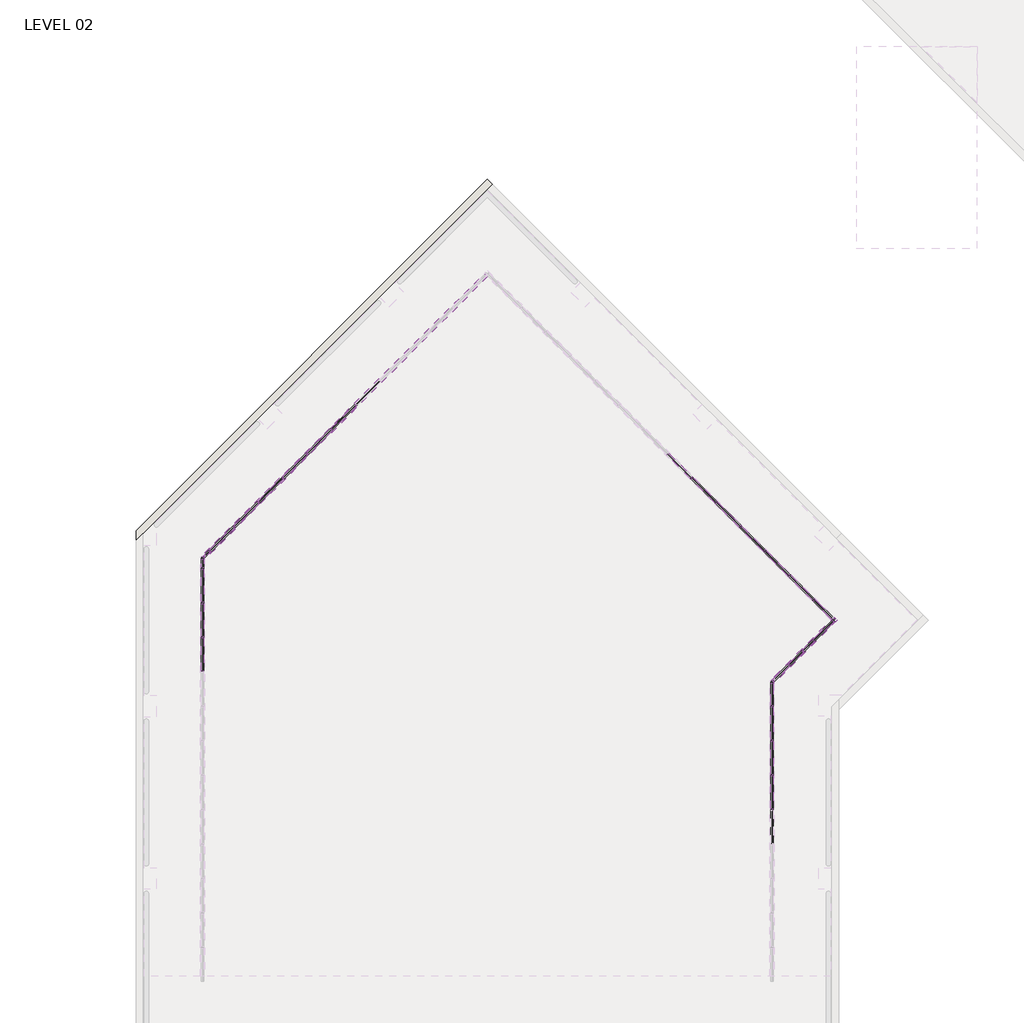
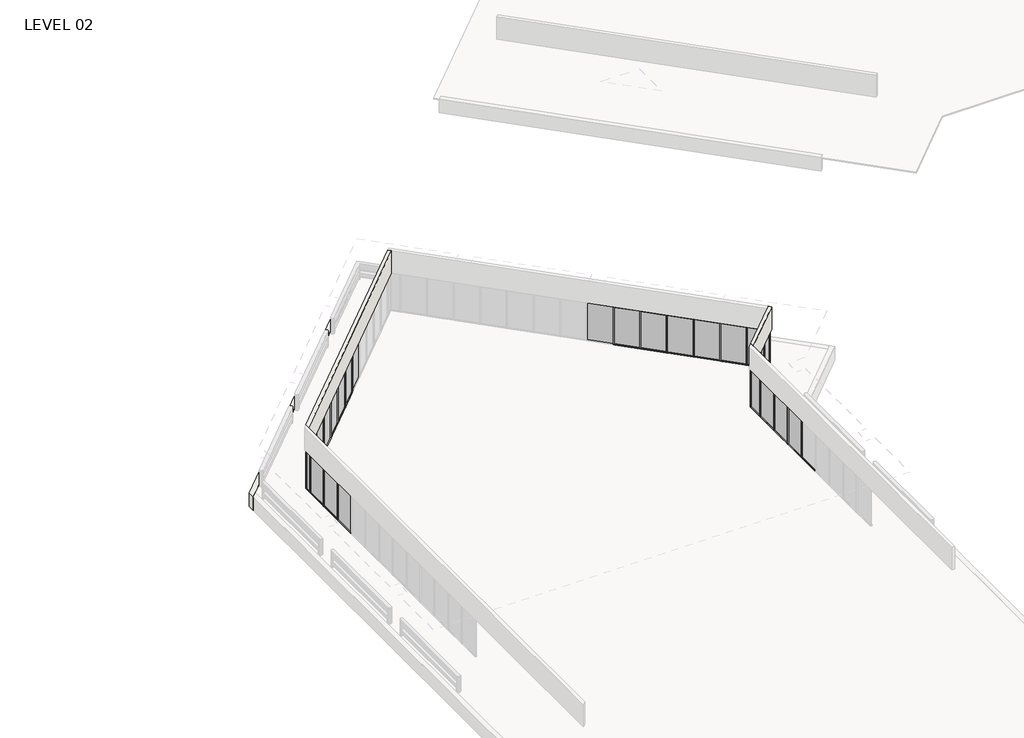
# One storey, part 5 of 19: 81 members, 27 plates, 3 walls.
"""IFC4 building model written with IfcOpenShell, lengths in millimetres."""

from ifc_helpers import new_model, si_unit, frame, origin, place, context, project, spatial, polyline, outline, extrude, faceted_brep, transform, mapped, element, save
from components import member_16770488, member_ed5eb8ce, member_5247f267, member_e44af9ab, member_800970d4, member_1d3a199d, member_1b18ecbc, member_76371e1d, member_71e516ba, plate_ce959b8d, plate_67294edd, plate_43a54168, plate_8062c6fe, plate_e0bd23ee, plate_474de82a, plate_53ca565f, plate_9188e7fd, plate_7efc74f4

model = new_model("IFC4")

# Units and contexts
model_context = context("Model", 3, world=origin())
ifc_project = project(units=[si_unit("LENGTHUNIT", "METRE", prefix="MILLI")], contexts=[model_context])

# Site, building, storey
site = spatial("IfcSite", under=ifc_project)
building = spatial("IfcBuilding", under=site)
storey = spatial("IfcBuildingStorey", under=building, Name="LEVEL 02", Elevation=4140.2)

# Members
placement = place(None, origin())
member_shape = member_16770488(model_context)
element("IfcMember", 1, ObjectType="Rectangular Mullion : 2\" x 4.5\" rectangular", at=placement, inside=storey, context=model_context, shape_type="MappedRepresentation", body=[
    mapped(member_shape, transform((-29793.1847164, 75444.0230911, 6731.0), x_axis=(0.0, 0.0, 1.0), y_axis=(1.0, 0.0, 0.0), z_axis=(0.0, 1.0, 0.0))),
])
member_2_shape = member_ed5eb8ce(model_context)
element("IfcMember", 2, ObjectType="Rectangular Mullion : 2\" x 4.5\" rectangular", at=placement, inside=storey, context=model_context, shape_type="MappedRepresentation", body=[
    mapped(member_2_shape, transform((-4566.8136919, 70057.0331104, 6731.0), x_axis=(0.0, 0.0, 1.0), y_axis=(-0.7071067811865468, 0.7071067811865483, 0.0), z_axis=(-0.7071067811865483, -0.7071067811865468, 0.0))),
])
element("IfcMember", 3, ObjectType="Rectangular Mullion : 2\" x 4.5\" rectangular", at=placement, inside=storey, context=model_context, shape_type="MappedRepresentation", body=[
    mapped(member_2_shape, transform((-4602.7347164, 68973.3675885, 6731.0), x_axis=(0.0, 0.0, 1.0), y_axis=(-1.0, 0.0, 0.0), z_axis=(0.0, -1.0, 0.0))),
])
member_3_shape = member_5247f267(model_context)
element("IfcMember", 4, ObjectType="Rectangular Mullion : 2\" x 4.5\" rectangular", at=placement, inside=storey, context=model_context, shape_type="MappedRepresentation", body=[
    mapped(member_3_shape, transform((-29793.1847164, 73494.5675885, 6731.0), x_axis=(0.0, 0.0, 1.0), y_axis=(1.0, 0.0, 0.0), z_axis=(0.0, 1.0, 0.0))),
])
element("IfcMember", 5, ObjectType="Rectangular Mullion : 2\" x 4.5\" rectangular", at=placement, inside=storey, context=model_context, shape_type="MappedRepresentation", body=[
    mapped(member_3_shape, transform((-27337.259449, 77950.7483585, 6731.0), x_axis=(0.0, 0.0, 1.0), y_axis=(0.7071067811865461, -0.707106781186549, 0.0), z_axis=(0.707106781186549, 0.7071067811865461, 0.0))),
])
element("IfcMember", 6, ObjectType="Rectangular Mullion : 2\" x 4.5\" rectangular", at=placement, inside=storey, context=model_context, shape_type="MappedRepresentation", body=[
    mapped(member_3_shape, transform((-25181.9979799, 80106.0098276, 6731.0), x_axis=(0.0, 0.0, 1.0), y_axis=(0.7071067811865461, -0.707106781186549, 0.0), z_axis=(0.707106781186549, 0.7071067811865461, 0.0))),
])
element("IfcMember", 7, ObjectType="Rectangular Mullion : 2\" x 4.5\" rectangular", at=placement, inside=storey, context=model_context, shape_type="MappedRepresentation", body=[
    mapped(member_3_shape, transform((-24104.3672454, 81183.6405621, 6731.0), x_axis=(0.0, 0.0, 1.0), y_axis=(0.7071067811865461, -0.707106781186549, 0.0), z_axis=(0.707106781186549, 0.7071067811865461, 0.0))),
])
element("IfcMember", 8, ObjectType="Rectangular Mullion : 2\" x 4.5\" rectangular", at=placement, inside=storey, context=model_context, shape_type="MappedRepresentation", body=[
    mapped(member_3_shape, transform((-23026.7365109, 82261.2712966, 6731.0), x_axis=(0.0, 0.0, 1.0), y_axis=(0.7071067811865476, -0.7071067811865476, 0.0), z_axis=(0.7071067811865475, 0.7071067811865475, 0.0))),
])
element("IfcMember", 9, ObjectType="Rectangular Mullion : 2\" x 4.5\" rectangular", at=placement, inside=storey, context=model_context, shape_type="MappedRepresentation", body=[
    mapped(member_3_shape, transform((-7094.7596809, 77986.8480556, 6731.0), x_axis=(0.0, 0.0, 1.0), y_axis=(-0.7071067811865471, -0.7071067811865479, 0.0), z_axis=(0.7071067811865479, -0.7071067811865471, 0.0))),
])
element("IfcMember", 10, ObjectType="Rectangular Mullion : 2\" x 4.5\" rectangular", at=placement, inside=storey, context=model_context, shape_type="MappedRepresentation", body=[
    mapped(member_3_shape, transform((-4939.4982119, 75831.5865866, 6731.0), x_axis=(0.0, 0.0, 1.0), y_axis=(-0.7071067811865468, -0.7071067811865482, 0.0), z_axis=(0.7071067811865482, -0.7071067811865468, 0.0))),
])
element("IfcMember", 11, ObjectType="Rectangular Mullion : 2\" x 4.5\" rectangular", at=placement, inside=storey, context=model_context, shape_type="MappedRepresentation", body=[
    mapped(member_3_shape, transform((-3861.8674773, 74753.9558521, 6731.0), x_axis=(0.0, 0.0, 1.0), y_axis=(-0.7071067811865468, -0.7071067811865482, 0.0), z_axis=(0.7071067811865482, -0.7071067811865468, 0.0))),
])
element("IfcMember", 12, ObjectType="Rectangular Mullion : 2\" x 4.5\" rectangular", at=placement, inside=storey, context=model_context, shape_type="MappedRepresentation", body=[
    mapped(member_3_shape, transform((-2784.2367428, 73676.3251175, 6731.0), x_axis=(0.0, 0.0, 1.0), y_axis=(-0.7071067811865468, -0.7071067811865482, 0.0), z_axis=(0.7071067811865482, -0.7071067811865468, 0.0))),
])
element("IfcMember", 13, ObjectType="Rectangular Mullion : 2\" x 4.5\" rectangular", at=placement, inside=storey, context=model_context, shape_type="MappedRepresentation", body=[
    mapped(member_3_shape, transform((-29793.1847164, 71970.5675885, 6731.0), x_axis=(0.0, 0.0, 1.0), y_axis=(1.0, 0.0, 0.0), z_axis=(0.0, 1.0, 0.0))),
])
element("IfcMember", 14, ObjectType="Rectangular Mullion : 2\" x 4.5\" rectangular", at=placement, inside=storey, context=model_context, shape_type="MappedRepresentation", body=[
    mapped(member_3_shape, transform((-29793.1847164, 75018.5675885, 6731.0), x_axis=(0.0, 0.0, 1.0), y_axis=(1.0, 0.0, 0.0), z_axis=(0.0, 1.0, 0.0))),
])
element("IfcMember", 15, ObjectType="Rectangular Mullion : 2\" x 4.5\" rectangular", at=placement, inside=storey, context=model_context, shape_type="MappedRepresentation", body=[
    mapped(member_3_shape, transform((-26259.6287145, 79028.3790931, 6731.0), x_axis=(0.0, 0.0, 1.0), y_axis=(0.707106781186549, -0.7071067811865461, 0.0), z_axis=(0.7071067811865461, 0.707106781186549, 0.0))),
])
element("IfcMember", 16, ObjectType="Rectangular Mullion : 2\" x 4.5\" rectangular", at=placement, inside=storey, context=model_context, shape_type="MappedRepresentation", body=[
    mapped(member_3_shape, transform((-28414.8901835, 76873.117624, 6731.0), x_axis=(0.0, 0.0, 1.0), y_axis=(0.7071067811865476, -0.7071067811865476, 0.0), z_axis=(0.7071067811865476, 0.7071067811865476, 0.0))),
])
element("IfcMember", 17, ObjectType="Rectangular Mullion : 2\" x 4.5\" rectangular", at=placement, inside=storey, context=model_context, shape_type="MappedRepresentation", body=[
    mapped(member_3_shape, transform((-8172.3904155, 79064.4787902, 6731.0), x_axis=(0.0, 0.0, 1.0), y_axis=(-0.7071067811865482, -0.7071067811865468, 0.0), z_axis=(0.7071067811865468, -0.7071067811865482, 0.0))),
])
element("IfcMember", 18, ObjectType="Rectangular Mullion : 2\" x 4.5\" rectangular", at=placement, inside=storey, context=model_context, shape_type="MappedRepresentation", body=[
    mapped(member_3_shape, transform((-6017.1289464, 76909.2173211, 6731.0), x_axis=(0.0, 0.0, 1.0), y_axis=(-0.7071067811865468, -0.7071067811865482, 0.0), z_axis=(0.7071067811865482, -0.7071067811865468, 0.0))),
])
element("IfcMember", 19, ObjectType="Rectangular Mullion : 2\" x 4.5\" rectangular", at=placement, inside=storey, context=model_context, shape_type="MappedRepresentation", body=[
    mapped(member_3_shape, transform((-4602.7347164, 64401.3675885, 6731.0), x_axis=(0.0, 0.0, 1.0), y_axis=(-1.0, 0.0, 0.0), z_axis=(0.0, -1.0, 0.0))),
])
element("IfcMember", 20, ObjectType="Rectangular Mullion : 2\" x 4.5\" rectangular", at=placement, inside=storey, context=model_context, shape_type="MappedRepresentation", body=[
    mapped(member_3_shape, transform((-4602.7347164, 65925.3675885, 6731.0), x_axis=(0.0, 0.0, 1.0), y_axis=(-1.0, 0.0, 0.0), z_axis=(0.0, -1.0, 0.0))),
])
element("IfcMember", 21, ObjectType="Rectangular Mullion : 2\" x 4.5\" rectangular", at=placement, inside=storey, context=model_context, shape_type="MappedRepresentation", body=[
    mapped(member_3_shape, transform((-4602.7347164, 67449.3675885, 6731.0), x_axis=(0.0, 0.0, 1.0), y_axis=(-1.0, 0.0, 0.0), z_axis=(0.0, -1.0, 0.0))),
])
element("IfcMember", 22, ObjectType="Rectangular Mullion : 2\" x 4.5\" rectangular", at=placement, inside=storey, context=model_context, shape_type="MappedRepresentation", body=[
    mapped(member_2_shape, transform((-3861.8635864, 70761.9832159, 4140.2), x_axis=(0.0, 0.0, -1.0), y_axis=(-0.7071067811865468, 0.7071067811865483, 0.0), z_axis=(0.7071067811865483, 0.7071067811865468, 0.0))),
])
element("IfcMember", 23, ObjectType="Rectangular Mullion : 2\" x 4.5\" rectangular", at=placement, inside=storey, context=model_context, shape_type="MappedRepresentation", body=[
    mapped(member_2_shape, transform((-4602.7347164, 69970.3120859, 4140.2), x_axis=(0.0, 0.0, -1.0), y_axis=(-1.0, 0.0, 0.0), z_axis=(0.0, 1.0, 0.0))),
])
element("IfcMember", 24, ObjectType="Rectangular Mullion : 2\" x 4.5\" rectangular", at=placement, inside=storey, context=model_context, shape_type="MappedRepresentation", body=[
    mapped(member_3_shape, transform((-29793.1847164, 73545.3675885, 4140.2), x_axis=(0.0, 0.0, -1.0), y_axis=(1.0, 0.0, 0.0), z_axis=(0.0, -1.0, 0.0))),
])
element("IfcMember", 25, ObjectType="Rectangular Mullion : 2\" x 4.5\" rectangular", at=placement, inside=storey, context=model_context, shape_type="MappedRepresentation", body=[
    mapped(member_3_shape, transform((-27301.3384245, 77986.669383, 4140.2), x_axis=(0.0, 0.0, -1.0), y_axis=(0.707106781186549, -0.7071067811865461, 0.0), z_axis=(-0.7071067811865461, -0.707106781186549, 0.0))),
])
element("IfcMember", 26, ObjectType="Rectangular Mullion : 2\" x 4.5\" rectangular", at=placement, inside=storey, context=model_context, shape_type="MappedRepresentation", body=[
    mapped(member_3_shape, transform((-25146.0769555, 80141.9308521, 4140.2), x_axis=(0.0, 0.0, -1.0), y_axis=(0.7071067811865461, -0.707106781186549, 0.0), z_axis=(-0.707106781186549, -0.7071067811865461, 0.0))),
])
element("IfcMember", 27, ObjectType="Rectangular Mullion : 2\" x 4.5\" rectangular", at=placement, inside=storey, context=model_context, shape_type="MappedRepresentation", body=[
    mapped(member_3_shape, transform((-24068.4462209, 81219.5615866, 4140.2), x_axis=(0.0, 0.0, -1.0), y_axis=(0.707106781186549, -0.7071067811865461, 0.0), z_axis=(-0.7071067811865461, -0.707106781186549, 0.0))),
])
element("IfcMember", 28, ObjectType="Rectangular Mullion : 2\" x 4.5\" rectangular", at=placement, inside=storey, context=model_context, shape_type="MappedRepresentation", body=[
    mapped(member_3_shape, transform((-7058.8386564, 77950.9270312, 4140.2), x_axis=(0.0, 0.0, -1.0), y_axis=(-0.7071067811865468, -0.7071067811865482, 0.0), z_axis=(-0.7071067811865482, 0.7071067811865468, 0.0))),
])
element("IfcMember", 29, ObjectType="Rectangular Mullion : 2\" x 4.5\" rectangular", at=placement, inside=storey, context=model_context, shape_type="MappedRepresentation", body=[
    mapped(member_3_shape, transform((-4903.5771874, 75795.6655621, 4140.2), x_axis=(0.0, 0.0, -1.0), y_axis=(-0.7071067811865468, -0.7071067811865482, 0.0), z_axis=(-0.7071067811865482, 0.7071067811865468, 0.0))),
])
element("IfcMember", 30, ObjectType="Rectangular Mullion : 2\" x 4.5\" rectangular", at=placement, inside=storey, context=model_context, shape_type="MappedRepresentation", body=[
    mapped(member_3_shape, transform((-3825.9464529, 74718.0348276, 4140.2), x_axis=(0.0, 0.0, -1.0), y_axis=(-0.7071067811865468, -0.7071067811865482, 0.0), z_axis=(-0.7071067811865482, 0.7071067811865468, 0.0))),
])
element("IfcMember", 31, ObjectType="Rectangular Mullion : 2\" x 4.5\" rectangular", at=placement, inside=storey, context=model_context, shape_type="MappedRepresentation", body=[
    mapped(member_3_shape, transform((-29793.1847164, 70497.3675885, 4140.2), x_axis=(0.0, 0.0, -1.0), y_axis=(1.0, 0.0, 0.0), z_axis=(0.0, -1.0, 0.0))),
])
element("IfcMember", 32, ObjectType="Rectangular Mullion : 2\" x 4.5\" rectangular", at=placement, inside=storey, context=model_context, shape_type="MappedRepresentation", body=[
    mapped(member_3_shape, transform((-29793.1847164, 72021.3675885, 4140.2), x_axis=(0.0, 0.0, -1.0), y_axis=(1.0, 0.0, 0.0), z_axis=(0.0, -1.0, 0.0))),
])
element("IfcMember", 33, ObjectType="Rectangular Mullion : 2\" x 4.5\" rectangular", at=placement, inside=storey, context=model_context, shape_type="MappedRepresentation", body=[
    mapped(member_3_shape, transform((-26223.70769, 79064.3001175, 4140.2), x_axis=(0.0, 0.0, -1.0), y_axis=(0.7071067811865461, -0.707106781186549, 0.0), z_axis=(-0.707106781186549, -0.7071067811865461, 0.0))),
])
element("IfcMember", 34, ObjectType="Rectangular Mullion : 2\" x 4.5\" rectangular", at=placement, inside=storey, context=model_context, shape_type="MappedRepresentation", body=[
    mapped(member_3_shape, transform((-28378.969159, 76909.0386485, 4140.2), x_axis=(0.0, 0.0, -1.0), y_axis=(0.7071067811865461, -0.707106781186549, 0.0), z_axis=(-0.707106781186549, -0.7071067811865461, 0.0))),
])
element("IfcMember", 35, ObjectType="Rectangular Mullion : 2\" x 4.5\" rectangular", at=placement, inside=storey, context=model_context, shape_type="MappedRepresentation", body=[
    mapped(member_3_shape, transform((-29456.5998936, 75831.407914, 4140.2), x_axis=(0.0, 0.0, -1.0), y_axis=(0.7071067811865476, -0.7071067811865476, 0.0), z_axis=(-0.7071067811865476, -0.7071067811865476, 0.0))),
])
element("IfcMember", 36, ObjectType="Rectangular Mullion : 2\" x 4.5\" rectangular", at=placement, inside=storey, context=model_context, shape_type="MappedRepresentation", body=[
    mapped(member_3_shape, transform((-8136.469391, 79028.5577657, 4140.2), x_axis=(0.0, 0.0, -1.0), y_axis=(-0.7071067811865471, -0.7071067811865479, 0.0), z_axis=(-0.7071067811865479, 0.7071067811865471, 0.0))),
])
element("IfcMember", 37, ObjectType="Rectangular Mullion : 2\" x 4.5\" rectangular", at=placement, inside=storey, context=model_context, shape_type="MappedRepresentation", body=[
    mapped(member_3_shape, transform((-5981.2079219, 76873.2962966, 4140.2), x_axis=(0.0, 0.0, -1.0), y_axis=(-0.7071067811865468, -0.7071067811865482, 0.0), z_axis=(-0.7071067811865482, 0.7071067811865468, 0.0))),
])
element("IfcMember", 38, ObjectType="Rectangular Mullion : 2\" x 4.5\" rectangular", at=placement, inside=storey, context=model_context, shape_type="MappedRepresentation", body=[
    mapped(member_3_shape, transform((-4602.7347164, 68922.5675885, 4140.2), x_axis=(0.0, 0.0, -1.0), y_axis=(-1.0, 0.0, 0.0), z_axis=(0.0, 1.0, 0.0))),
])
element("IfcMember", 39, ObjectType="Rectangular Mullion : 2\" x 4.5\" rectangular", at=placement, inside=storey, context=model_context, shape_type="MappedRepresentation", body=[
    mapped(member_3_shape, transform((-4602.7347164, 64350.5675885, 4140.2), x_axis=(0.0, 0.0, -1.0), y_axis=(-1.0, 0.0, 0.0), z_axis=(0.0, 1.0, 0.0))),
])
element("IfcMember", 40, ObjectType="Rectangular Mullion : 2\" x 4.5\" rectangular", at=placement, inside=storey, context=model_context, shape_type="MappedRepresentation", body=[
    mapped(member_3_shape, transform((-4602.7347164, 65874.5675885, 4140.2), x_axis=(0.0, 0.0, -1.0), y_axis=(-1.0, 0.0, 0.0), z_axis=(0.0, 1.0, 0.0))),
])
element("IfcMember", 41, ObjectType="Rectangular Mullion : 2\" x 4.5\" rectangular", at=placement, inside=storey, context=model_context, shape_type="MappedRepresentation", body=[
    mapped(member_3_shape, transform((-4602.7347164, 67398.5675885, 4140.2), x_axis=(0.0, 0.0, -1.0), y_axis=(-1.0, 0.0, 0.0), z_axis=(0.0, 1.0, 0.0))),
])
member_4_shape = member_e44af9ab(model_context)
element("IfcMember", 42, ObjectType="Rectangular Mullion : 2\" x 4.5\" rectangular", at=placement, inside=storey, context=model_context, shape_type="MappedRepresentation", body=[
    mapped(member_4_shape, transform((-29793.1847164, 73519.9675885, 4140.2), x_axis=(0.0, 1.0, 0.0), y_axis=(1.0, 0.0, 0.0), z_axis=(0.0, 0.0, -1.0))),
])
element("IfcMember", 43, ObjectType="Rectangular Mullion : 2\" x 4.5\" rectangular", at=placement, inside=storey, context=model_context, shape_type="MappedRepresentation", body=[
    mapped(member_4_shape, transform((-27319.2989368, 77968.7088708, 4140.2), x_axis=(0.7071067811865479, 0.7071067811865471, 0.0), y_axis=(0.7071067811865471, -0.7071067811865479, 0.0), z_axis=(0.0, 0.0, -1.0))),
])
element("IfcMember", 44, ObjectType="Rectangular Mullion : 2\" x 4.5\" rectangular", at=placement, inside=storey, context=model_context, shape_type="MappedRepresentation", body=[
    mapped(member_4_shape, transform((-25164.0374677, 80123.9703398, 4140.2), x_axis=(0.7071067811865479, 0.7071067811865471, 0.0), y_axis=(0.7071067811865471, -0.7071067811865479, 0.0), z_axis=(0.0, 0.0, -1.0))),
])
element("IfcMember", 45, ObjectType="Rectangular Mullion : 2\" x 4.5\" rectangular", at=placement, inside=storey, context=model_context, shape_type="MappedRepresentation", body=[
    mapped(member_4_shape, transform((-24086.4067332, 81201.6010744, 4140.2), x_axis=(0.7071067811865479, 0.7071067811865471, 0.0), y_axis=(0.7071067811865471, -0.7071067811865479, 0.0), z_axis=(0.0, 0.0, -1.0))),
])
element("IfcMember", 46, ObjectType="Rectangular Mullion : 2\" x 4.5\" rectangular", at=placement, inside=storey, context=model_context, shape_type="MappedRepresentation", body=[
    mapped(member_4_shape, transform((-23008.7759986, 82279.2318089, 4140.2), x_axis=(0.7071067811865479, 0.7071067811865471, 0.0), y_axis=(0.7071067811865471, -0.7071067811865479, 0.0), z_axis=(0.0, 0.0, -1.0))),
])
element("IfcMember", 47, ObjectType="Rectangular Mullion : 2\" x 4.5\" rectangular", at=placement, inside=storey, context=model_context, shape_type="MappedRepresentation", body=[
    mapped(member_4_shape, transform((-7076.7991687, 77968.8875434, 4140.2), x_axis=(0.707106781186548, -0.707106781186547, 0.0), y_axis=(-0.707106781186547, -0.707106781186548, 0.0), z_axis=(0.0, 0.0, -1.0))),
])
element("IfcMember", 48, ObjectType="Rectangular Mullion : 2\" x 4.5\" rectangular", at=placement, inside=storey, context=model_context, shape_type="MappedRepresentation", body=[
    mapped(member_4_shape, transform((-4921.5376996, 75813.6260744, 4140.2), x_axis=(0.707106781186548, -0.707106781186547, 0.0), y_axis=(-0.707106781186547, -0.707106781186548, 0.0), z_axis=(0.0, 0.0, -1.0))),
])
element("IfcMember", 49, ObjectType="Rectangular Mullion : 2\" x 4.5\" rectangular", at=placement, inside=storey, context=model_context, shape_type="MappedRepresentation", body=[
    mapped(member_4_shape, transform((-3843.9030742, 70779.9437281, 4140.2), x_axis=(-0.7071067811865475, -0.7071067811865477, 0.0), y_axis=(-0.7071067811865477, 0.7071067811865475, 0.0), z_axis=(0.0, 0.0, -1.0))),
])
element("IfcMember", 50, ObjectType="Rectangular Mullion : 2\" x 4.5\" rectangular", at=placement, inside=storey, context=model_context, shape_type="MappedRepresentation", body=[
    mapped(member_4_shape, transform((-3843.9069651, 74735.9953398, 4140.2), x_axis=(0.707106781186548, -0.707106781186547, 0.0), y_axis=(-0.707106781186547, -0.707106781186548, 0.0), z_axis=(0.0, 0.0, -1.0))),
])
element("IfcMember", 51, ObjectType="Rectangular Mullion : 2\" x 4.5\" rectangular", at=placement, inside=storey, context=model_context, shape_type="MappedRepresentation", body=[
    mapped(member_4_shape, transform((-2766.2762306, 73658.3646053, 4140.2), x_axis=(0.707106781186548, -0.707106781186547, 0.0), y_axis=(-0.707106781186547, -0.707106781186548, 0.0), z_axis=(0.0, 0.0, -1.0))),
])
element("IfcMember", 52, ObjectType="Rectangular Mullion : 2\" x 4.5\" rectangular", at=placement, inside=storey, context=model_context, shape_type="MappedRepresentation", body=[
    mapped(member_4_shape, transform((-29793.1847164, 71995.9675885, 4140.2), x_axis=(0.0, 1.0, 0.0), y_axis=(1.0, 0.0, 0.0), z_axis=(0.0, 0.0, -1.0))),
])
element("IfcMember", 53, ObjectType="Rectangular Mullion : 2\" x 4.5\" rectangular", at=placement, inside=storey, context=model_context, shape_type="MappedRepresentation", body=[
    mapped(member_4_shape, transform((-29793.1847164, 75043.9675885, 4140.2), x_axis=(0.0, 1.0, 0.0), y_axis=(1.0, 0.0, 0.0), z_axis=(0.0, 0.0, -1.0))),
])
element("IfcMember", 54, ObjectType="Rectangular Mullion : 2\" x 4.5\" rectangular", at=placement, inside=storey, context=model_context, shape_type="MappedRepresentation", body=[
    mapped(member_4_shape, transform((-26241.6682022, 79046.3396053, 4140.2), x_axis=(0.7071067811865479, 0.7071067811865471, 0.0), y_axis=(0.7071067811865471, -0.7071067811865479, 0.0), z_axis=(0.0, 0.0, -1.0))),
])
element("IfcMember", 55, ObjectType="Rectangular Mullion : 2\" x 4.5\" rectangular", at=placement, inside=storey, context=model_context, shape_type="MappedRepresentation", body=[
    mapped(member_4_shape, transform((-28396.9296713, 76891.0781362, 4140.2), x_axis=(0.7071067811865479, 0.7071067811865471, 0.0), y_axis=(0.7071067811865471, -0.7071067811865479, 0.0), z_axis=(0.0, 0.0, -1.0))),
])
element("IfcMember", 56, ObjectType="Rectangular Mullion : 2\" x 4.5\" rectangular", at=placement, inside=storey, context=model_context, shape_type="MappedRepresentation", body=[
    mapped(member_4_shape, transform((-29474.5604058, 75813.4474017, 4140.2), x_axis=(0.7071067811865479, 0.7071067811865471, 0.0), y_axis=(0.7071067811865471, -0.7071067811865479, 0.0), z_axis=(0.0, 0.0, -1.0))),
])
element("IfcMember", 57, ObjectType="Rectangular Mullion : 2\" x 4.5\" rectangular", at=placement, inside=storey, context=model_context, shape_type="MappedRepresentation", body=[
    mapped(member_4_shape, transform((-8154.4299032, 79046.5182779, 4140.2), x_axis=(0.707106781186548, -0.707106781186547, 0.0), y_axis=(-0.707106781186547, -0.707106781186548, 0.0), z_axis=(0.0, 0.0, -1.0))),
])
element("IfcMember", 58, ObjectType="Rectangular Mullion : 2\" x 4.5\" rectangular", at=placement, inside=storey, context=model_context, shape_type="MappedRepresentation", body=[
    mapped(member_4_shape, transform((-5999.1684342, 76891.2568089, 4140.2), x_axis=(0.707106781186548, -0.707106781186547, 0.0), y_axis=(-0.707106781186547, -0.707106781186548, 0.0), z_axis=(0.0, 0.0, -1.0))),
])
element("IfcMember", 59, ObjectType="Rectangular Mullion : 2\" x 4.5\" rectangular", at=placement, inside=storey, context=model_context, shape_type="MappedRepresentation", body=[
    mapped(member_4_shape, transform((-2766.2723396, 71857.5744627, 4140.2), x_axis=(-0.7071067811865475, -0.7071067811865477, 0.0), y_axis=(-0.7071067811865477, 0.7071067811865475, 0.0), z_axis=(0.0, 0.0, -1.0))),
])
element("IfcMember", 60, ObjectType="Rectangular Mullion : 2\" x 4.5\" rectangular", at=placement, inside=storey, context=model_context, shape_type="MappedRepresentation", body=[
    mapped(member_4_shape, transform((-4602.7347164, 68947.9675885, 4140.2), x_axis=(0.0, -1.0, 0.0), y_axis=(-1.0, 0.0, 0.0), z_axis=(0.0, 0.0, -1.0))),
])
element("IfcMember", 61, ObjectType="Rectangular Mullion : 2\" x 4.5\" rectangular", at=placement, inside=storey, context=model_context, shape_type="MappedRepresentation", body=[
    mapped(member_4_shape, transform((-4602.7347164, 64375.9675885, 4140.2), x_axis=(0.0, -1.0, 0.0), y_axis=(-1.0, 0.0, 0.0), z_axis=(0.0, 0.0, -1.0))),
])
element("IfcMember", 62, ObjectType="Rectangular Mullion : 2\" x 4.5\" rectangular", at=placement, inside=storey, context=model_context, shape_type="MappedRepresentation", body=[
    mapped(member_4_shape, transform((-4602.7347164, 65899.9675885, 4140.2), x_axis=(0.0, -1.0, 0.0), y_axis=(-1.0, 0.0, 0.0), z_axis=(0.0, 0.0, -1.0))),
])
element("IfcMember", 63, ObjectType="Rectangular Mullion : 2\" x 4.5\" rectangular", at=placement, inside=storey, context=model_context, shape_type="MappedRepresentation", body=[
    mapped(member_4_shape, transform((-4602.7347164, 67423.9675885, 4140.2), x_axis=(0.0, -1.0, 0.0), y_axis=(-1.0, 0.0, 0.0), z_axis=(0.0, 0.0, -1.0))),
])
element("IfcMember", 64, ObjectType="Rectangular Mullion : 2\" x 4.5\" rectangular", at=placement, inside=storey, context=model_context, shape_type="MappedRepresentation", body=[
    mapped(member_shape, transform((-29793.1847164, 75069.3675885, 4140.2), x_axis=(0.0, 0.0, -1.0), y_axis=(1.0, 0.0, 0.0), z_axis=(0.0, -1.0, 0.0))),
])
member_5_shape = member_800970d4(model_context)
element("IfcMember", 65, ObjectType="Rectangular Mullion : 2\" x 4.5\" rectangular", at=placement, inside=storey, context=model_context, shape_type="MappedRepresentation", body=[
    mapped(member_5_shape, transform((-29793.1847164, 75494.8230911, 4140.2), x_axis=(0.0, 1.0, 0.0), y_axis=(1.0, 0.0, 0.0), z_axis=(0.0, 0.0, -1.0))),
])
element("IfcMember", 66, ObjectType="Rectangular Mullion : 2\" x 4.5\" rectangular", at=placement, inside=storey, context=model_context, shape_type="MappedRepresentation", body=[
    mapped(member_5_shape, transform((-1865.8792138, 72757.9675885, 4140.2), x_axis=(0.707106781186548, -0.707106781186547, 0.0), y_axis=(-0.707106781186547, -0.707106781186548, 0.0), z_axis=(0.0, 0.0, -1.0))),
])
element("IfcMember", 67, ObjectType="Rectangular Mullion : 2\" x 4.5\" rectangular", at=placement, inside=storey, context=model_context, shape_type="MappedRepresentation", body=[
    mapped(member_5_shape, transform((-4602.7347164, 70021.1120859, 4140.2), x_axis=(-0.7071067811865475, -0.7071067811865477, 0.0), y_axis=(-0.7071067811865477, 0.7071067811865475, 0.0), z_axis=(0.0, 0.0, -1.0))),
])
element("IfcMember", 68, ObjectType="Rectangular Mullion : 2\" x 4.5\" rectangular", at=placement, inside=storey, context=model_context, shape_type="MappedRepresentation", body=[
    mapped(member_5_shape, transform((-29793.1847164, 75494.8230911, 6731.0), x_axis=(-0.7071067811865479, -0.7071067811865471, 0.0), y_axis=(0.7071067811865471, -0.7071067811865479, 0.0), z_axis=(0.0, 0.0, 1.0))),
])
element("IfcMember", 69, ObjectType="Rectangular Mullion : 2\" x 4.5\" rectangular", at=placement, inside=storey, context=model_context, shape_type="MappedRepresentation", body=[
    mapped(member_5_shape, transform((-1865.8792138, 72757.9675885, 6731.0), x_axis=(0.7071067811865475, 0.7071067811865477, 0.0), y_axis=(-0.7071067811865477, 0.7071067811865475, 0.0), z_axis=(0.0, 0.0, 1.0))),
])
element("IfcMember", 70, ObjectType="Rectangular Mullion : 2\" x 4.5\" rectangular", at=placement, inside=storey, context=model_context, shape_type="MappedRepresentation", body=[
    mapped(member_5_shape, transform((-4602.7347164, 70021.1120859, 6731.0), x_axis=(0.0, 1.0, 0.0), y_axis=(-1.0, 0.0, 0.0), z_axis=(0.0, 0.0, 1.0))),
])
member_6_shape = member_1d3a199d(model_context)
element("IfcMember", 71, ObjectType="Rectangular Mullion : 2\" x 4.5\" rectangular", at=placement, inside=storey, context=model_context, shape_type="MappedRepresentation", body=[
    mapped(member_6_shape, transform((-29757.2636919, 75530.7441156, 4140.2), x_axis=(0.0, 0.0, -1.0), y_axis=(0.7071067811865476, -0.7071067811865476, 0.0), z_axis=(-0.7071067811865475, -0.7071067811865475, 0.0))),
])
element("IfcMember", 72, ObjectType="Rectangular Mullion : 2\" x 4.5\" rectangular", at=placement, inside=storey, context=model_context, shape_type="MappedRepresentation", body=[
    mapped(member_6_shape, transform((-29492.5209181, 75795.4868895, 6731.0), x_axis=(0.0, 0.0, 1.0), y_axis=(0.7071067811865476, -0.7071067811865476, 0.0), z_axis=(0.7071067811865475, 0.7071067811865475, 0.0))),
])
member_7_shape = member_1b18ecbc(model_context)
element("IfcMember", 73, ObjectType="Rectangular Mullion : 2\" x 4.5\" rectangular", at=placement, inside=storey, context=model_context, shape_type="MappedRepresentation", body=[
    mapped(member_7_shape, transform((-1901.8002383, 72793.888613, 6731.0), x_axis=(0.0, 0.0, 1.0), y_axis=(-0.7071067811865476, -0.7071067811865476, 0.0), z_axis=(0.7071067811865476, -0.7071067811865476, 0.0))),
])
element("IfcMember", 74, ObjectType="Rectangular Mullion : 2\" x 4.5\" rectangular", at=placement, inside=storey, context=model_context, shape_type="MappedRepresentation", body=[
    mapped(member_7_shape, transform((-2748.3118274, 71875.5349749, 6731.0), x_axis=(0.0, 0.0, 1.0), y_axis=(-0.7071067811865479, 0.7071067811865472, 0.0), z_axis=(-0.7071067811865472, -0.7071067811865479, 0.0))),
])
element("IfcMember", 75, ObjectType="Rectangular Mullion : 2\" x 4.5\" rectangular", at=placement, inside=storey, context=model_context, shape_type="MappedRepresentation", body=[
    mapped(member_7_shape, transform((-1901.8002383, 72722.046564, 4140.2), x_axis=(0.0, 0.0, -1.0), y_axis=(-0.7071067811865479, 0.7071067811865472, 0.0), z_axis=(0.7071067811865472, 0.7071067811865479, 0.0))),
])
element("IfcMember", 76, ObjectType="Rectangular Mullion : 2\" x 4.5\" rectangular", at=placement, inside=storey, context=model_context, shape_type="MappedRepresentation", body=[
    mapped(member_7_shape, transform((-2748.3157183, 73640.4040931, 4140.2), x_axis=(0.0, 0.0, -1.0), y_axis=(-0.7071067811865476, -0.7071067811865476, 0.0), z_axis=(-0.7071067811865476, 0.7071067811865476, 0.0))),
])
member_8_shape = member_76371e1d(model_context)
element("IfcMember", 77, ObjectType="Rectangular Mullion : 2\" x 4.5\" rectangular", at=placement, inside=storey, context=model_context, shape_type="MappedRepresentation", body=[
    mapped(member_8_shape, transform((-3825.9425619, 70797.9042404, 6731.0), x_axis=(0.0, 0.0, 1.0), y_axis=(-0.7071067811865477, 0.7071067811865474, 0.0), z_axis=(-0.7071067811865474, -0.7071067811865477, 0.0))),
])
member_9_shape = member_71e516ba(model_context)
element("IfcMember", 78, ObjectType="Rectangular Mullion : 2\" x 4.5\" rectangular", at=placement, inside=storey, context=model_context, shape_type="MappedRepresentation", body=[
    mapped(member_9_shape, transform((-2784.2328519, 71839.6139504, 4140.2), x_axis=(0.0, 0.0, -1.0), y_axis=(-0.7071067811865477, 0.7071067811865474, 0.0), z_axis=(0.7071067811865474, 0.7071067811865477, 0.0))),
])
element("IfcMember", 79, ObjectType="Rectangular Mullion : 2\" x 4.5\" rectangular", at=placement, inside=storey, context=model_context, shape_type="MappedRepresentation", body=[
    mapped(member_9_shape, transform((-3216.3464529, 71407.5003495, 6731.0), x_axis=(0.0, 0.0, 1.0), y_axis=(-0.7071067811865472, 0.707106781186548, 0.0), z_axis=(-0.707106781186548, -0.7071067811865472, 0.0))),
])
element("IfcMember", 80, ObjectType="Rectangular Mullion : 2\" x 4.5\" rectangular", at=placement, inside=storey, context=model_context, shape_type="MappedRepresentation", body=[
    mapped(member_8_shape, transform((-3252.2674773, 71371.579325, 4140.2), x_axis=(0.0, 0.0, -1.0), y_axis=(-0.7071067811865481, 0.7071067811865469, 0.0), z_axis=(0.7071067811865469, 0.7071067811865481, 0.0))),
])
element("IfcMember", 81, ObjectType="Rectangular Mullion : 2\" x 4.5\" rectangular", at=placement, inside=storey, context=model_context, shape_type="MappedRepresentation", body=[
    mapped(member_4_shape, transform((-3234.3069651, 71389.5398372, 4140.2), x_axis=(-0.7071067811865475, -0.7071067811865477, 0.0), y_axis=(-0.7071067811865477, 0.7071067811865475, 0.0), z_axis=(0.0, 0.0, -1.0))),
])

# Plates
plate_shape = plate_ce959b8d(model_context)
element("IfcPlate", 82, ObjectType="System Panel : 1/4\" Glass", at=placement, inside=storey, context=model_context, shape_type="MappedRepresentation", body=[
    mapped(plate_shape, transform((-4602.7347164, 69471.8398372, 4191.0), x_axis=(0.0, -1.0, 0.0), y_axis=(1.0, 0.0, 0.0), z_axis=(0.0, 0.0, 1.0))),
])
plate_2_shape = plate_67294edd(model_context)
element("IfcPlate", 83, ObjectType="System Panel : 1/4\" Glass", at=placement, inside=storey, context=model_context, shape_type="MappedRepresentation", body=[
    mapped(plate_2_shape, transform((-29793.1847164, 71233.9675885, 4191.0), x_axis=(0.0, 1.0, 0.0), y_axis=(-1.0, 0.0, 0.0), z_axis=(0.0, 0.0, 1.0))),
])
element("IfcPlate", 84, ObjectType="System Panel : 1/4\" Glass", at=placement, inside=storey, context=model_context, shape_type="MappedRepresentation", body=[
    mapped(plate_2_shape, transform((-29793.1847164, 74281.9675885, 4191.0), x_axis=(0.0, 1.0, 0.0), y_axis=(-1.0, 0.0, 0.0), z_axis=(0.0, 0.0, 1.0))),
])
element("IfcPlate", 85, ObjectType="System Panel : 1/4\" Glass", at=placement, inside=storey, context=model_context, shape_type="MappedRepresentation", body=[
    mapped(plate_2_shape, transform((-26780.4835695, 78507.524238, 4191.0), x_axis=(0.7071067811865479, 0.7071067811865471, 0.0), y_axis=(-0.7071067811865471, 0.7071067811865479, 0.0), z_axis=(0.0, 0.0, 1.0))),
])
element("IfcPlate", 86, ObjectType="System Panel : 1/4\" Glass", at=placement, inside=storey, context=model_context, shape_type="MappedRepresentation", body=[
    mapped(plate_2_shape, transform((-24625.2221004, 80662.7857071, 4191.0), x_axis=(0.7071067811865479, 0.7071067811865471, 0.0), y_axis=(-0.7071067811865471, 0.7071067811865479, 0.0), z_axis=(0.0, 0.0, 1.0))),
])
element("IfcPlate", 87, ObjectType="System Panel : 1/4\" Glass", at=placement, inside=storey, context=model_context, shape_type="MappedRepresentation", body=[
    mapped(plate_2_shape, transform((-23547.5913659, 81740.4164416, 4191.0), x_axis=(0.7071067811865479, 0.7071067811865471, 0.0), y_axis=(-0.7071067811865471, 0.7071067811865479, 0.0), z_axis=(0.0, 0.0, 1.0))),
])
element("IfcPlate", 88, ObjectType="System Panel : 1/4\" Glass", at=placement, inside=storey, context=model_context, shape_type="MappedRepresentation", body=[
    mapped(plate_2_shape, transform((-22469.9606314, 82818.0471761, 4191.0), x_axis=(0.7071067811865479, 0.7071067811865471, 0.0), y_axis=(-0.7071067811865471, 0.7071067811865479, 0.0), z_axis=(0.0, 0.0, 1.0))),
])
element("IfcPlate", 89, ObjectType="System Panel : 1/4\" Glass", at=placement, inside=storey, context=model_context, shape_type="MappedRepresentation", body=[
    mapped(plate_2_shape, transform((-8693.2452705, 79585.3336452, 4191.0), x_axis=(0.707106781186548, -0.707106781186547, 0.0), y_axis=(0.707106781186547, 0.707106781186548, 0.0), z_axis=(0.0, 0.0, 1.0))),
])
element("IfcPlate", 90, ObjectType="System Panel : 1/4\" Glass", at=placement, inside=storey, context=model_context, shape_type="MappedRepresentation", body=[
    mapped(plate_2_shape, transform((-6537.9838014, 77430.0721761, 4191.0), x_axis=(0.707106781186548, -0.707106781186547, 0.0), y_axis=(0.707106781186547, 0.707106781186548, 0.0), z_axis=(0.0, 0.0, 1.0))),
])
element("IfcPlate", 91, ObjectType="System Panel : 1/4\" Glass", at=placement, inside=storey, context=model_context, shape_type="MappedRepresentation", body=[
    mapped(plate_2_shape, transform((-4382.7223324, 75274.8107071, 4191.0), x_axis=(0.707106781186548, -0.707106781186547, 0.0), y_axis=(0.707106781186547, 0.707106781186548, 0.0), z_axis=(0.0, 0.0, 1.0))),
])
element("IfcPlate", 92, ObjectType="System Panel : 1/4\" Glass", at=placement, inside=storey, context=model_context, shape_type="MappedRepresentation", body=[
    mapped(plate_2_shape, transform((-3305.0915978, 74197.1799726, 4191.0), x_axis=(0.707106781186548, -0.707106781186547, 0.0), y_axis=(0.707106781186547, 0.707106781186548, 0.0), z_axis=(0.0, 0.0, 1.0))),
])
element("IfcPlate", 93, ObjectType="System Panel : 1/4\" Glass", at=placement, inside=storey, context=model_context, shape_type="MappedRepresentation", body=[
    mapped(plate_2_shape, transform((-29793.1847164, 72757.9675885, 4191.0), x_axis=(0.0, 1.0, 0.0), y_axis=(-1.0, 0.0, 0.0), z_axis=(0.0, 0.0, 1.0))),
])
element("IfcPlate", 94, ObjectType="System Panel : 1/4\" Glass", at=placement, inside=storey, context=model_context, shape_type="MappedRepresentation", body=[
    mapped(plate_2_shape, transform((-25702.852835, 79585.1549726, 4191.0), x_axis=(0.7071067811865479, 0.7071067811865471, 0.0), y_axis=(-0.7071067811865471, 0.7071067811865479, 0.0), z_axis=(0.0, 0.0, 1.0))),
])
element("IfcPlate", 95, ObjectType="System Panel : 1/4\" Glass", at=placement, inside=storey, context=model_context, shape_type="MappedRepresentation", body=[
    mapped(plate_2_shape, transform((-27858.114304, 77429.8935035, 4191.0), x_axis=(0.7071067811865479, 0.7071067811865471, 0.0), y_axis=(-0.7071067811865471, 0.7071067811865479, 0.0), z_axis=(0.0, 0.0, 1.0))),
])
element("IfcPlate", 96, ObjectType="System Panel : 1/4\" Glass", at=placement, inside=storey, context=model_context, shape_type="MappedRepresentation", body=[
    mapped(plate_2_shape, transform((-28935.7450386, 76352.262769, 4191.0), x_axis=(0.7071067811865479, 0.7071067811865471, 0.0), y_axis=(-0.7071067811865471, 0.7071067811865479, 0.0), z_axis=(0.0, 0.0, 1.0))),
])
element("IfcPlate", 97, ObjectType="System Panel : 1/4\" Glass", at=placement, inside=storey, context=model_context, shape_type="MappedRepresentation", body=[
    mapped(plate_2_shape, transform((-7615.6145359, 78507.7029107, 4191.0), x_axis=(0.707106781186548, -0.707106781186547, 0.0), y_axis=(0.707106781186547, 0.707106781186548, 0.0), z_axis=(0.0, 0.0, 1.0))),
])
element("IfcPlate", 98, ObjectType="System Panel : 1/4\" Glass", at=placement, inside=storey, context=model_context, shape_type="MappedRepresentation", body=[
    mapped(plate_2_shape, transform((-5460.3530669, 76352.4414416, 4191.0), x_axis=(0.707106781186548, -0.707106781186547, 0.0), y_axis=(0.707106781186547, 0.707106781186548, 0.0), z_axis=(0.0, 0.0, 1.0))),
])
element("IfcPlate", 99, ObjectType="System Panel : 1/4\" Glass", at=placement, inside=storey, context=model_context, shape_type="MappedRepresentation", body=[
    mapped(plate_2_shape, transform((-4602.7347164, 68185.9675885, 4191.0), x_axis=(0.0, -1.0, 0.0), y_axis=(1.0, 0.0, 0.0), z_axis=(0.0, 0.0, 1.0))),
])
element("IfcPlate", 100, ObjectType="System Panel : 1/4\" Glass", at=placement, inside=storey, context=model_context, shape_type="MappedRepresentation", body=[
    mapped(plate_2_shape, transform((-4602.7347164, 65137.9675885, 4191.0), x_axis=(0.0, -1.0, 0.0), y_axis=(1.0, 0.0, 0.0), z_axis=(0.0, 0.0, 1.0))),
])
element("IfcPlate", 101, ObjectType="System Panel : 1/4\" Glass", at=placement, inside=storey, context=model_context, shape_type="MappedRepresentation", body=[
    mapped(plate_2_shape, transform((-4602.7347164, 66661.9675885, 4191.0), x_axis=(0.0, -1.0, 0.0), y_axis=(1.0, 0.0, 0.0), z_axis=(0.0, 0.0, 1.0))),
])
plate_3_shape = plate_43a54168(model_context)
element("IfcPlate", 102, ObjectType="System Panel : 1/4\" Glass", at=placement, inside=storey, context=model_context, shape_type="MappedRepresentation", body=[
    mapped(plate_3_shape, transform((-4214.3386392, 70409.5081632, 4191.0), x_axis=(-0.7071067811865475, -0.7071067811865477, 0.0), y_axis=(0.7071067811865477, -0.7071067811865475, 0.0), z_axis=(0.0, 0.0, 1.0))),
])
plate_4_shape = plate_8062c6fe(model_context)
element("IfcPlate", 103, ObjectType="System Panel : 1/4\" Glass", at=placement, inside=storey, context=model_context, shape_type="MappedRepresentation", body=[
    mapped(plate_4_shape, transform((-29624.892305, 75663.1155025, 4191.0), x_axis=(0.7071067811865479, 0.7071067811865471, 0.0), y_axis=(-0.7071067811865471, 0.7071067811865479, 0.0), z_axis=(0.0, 0.0, 1.0))),
])
plate_5_shape = plate_e0bd23ee(model_context)
element("IfcPlate", 104, ObjectType="System Panel : 1/4\" Glass", at=placement, inside=storey, context=model_context, shape_type="MappedRepresentation", body=[
    mapped(plate_5_shape, transform((-2325.0560328, 72298.7907695, 4191.0), x_axis=(-0.7071067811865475, -0.7071067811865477, 0.0), y_axis=(0.7071067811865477, -0.7071067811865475, 0.0), z_axis=(0.0, 0.0, 1.0))),
])
plate_6_shape = plate_474de82a(model_context)
element("IfcPlate", 105, ObjectType="System Panel : 1/4\" Glass", at=placement, inside=storey, context=model_context, shape_type="MappedRepresentation", body=[
    mapped(plate_6_shape, transform((-2325.0579783, 73217.146353, 4191.0), x_axis=(0.707106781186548, -0.707106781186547, 0.0), y_axis=(0.707106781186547, 0.707106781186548, 0.0), z_axis=(0.0, 0.0, 1.0))),
])
plate_7_shape = plate_53ca565f(model_context)
element("IfcPlate", 106, ObjectType="System Panel : 1/4\" Glass", at=placement, inside=storey, context=model_context, shape_type="MappedRepresentation", body=[
    mapped(plate_7_shape, transform((-29793.1847164, 75256.6953398, 4191.0), x_axis=(0.0, 1.0, 0.0), y_axis=(-1.0, 0.0, 0.0), z_axis=(0.0, 0.0, 1.0))),
])
plate_8_shape = plate_9188e7fd(model_context)
element("IfcPlate", 107, ObjectType="System Panel : 1/4\" Glass", at=placement, inside=storey, context=model_context, shape_type="MappedRepresentation", body=[
    mapped(plate_8_shape, transform((-3000.2896524, 71623.5571499, 4191.0), x_axis=(-0.7071067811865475, -0.7071067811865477, 0.0), y_axis=(0.7071067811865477, -0.7071067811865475, 0.0), z_axis=(0.0, 0.0, 1.0))),
])
plate_9_shape = plate_7efc74f4(model_context)
element("IfcPlate", 108, ObjectType="System Panel : 1/4\" Glass", at=placement, inside=storey, context=model_context, shape_type="MappedRepresentation", body=[
    mapped(plate_9_shape, transform((-3539.1050196, 71084.7417827, 4191.0), x_axis=(-0.7071067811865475, -0.7071067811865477, 0.0), y_axis=(0.7071067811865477, -0.7071067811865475, 0.0), z_axis=(0.0, 0.0, 1.0))),
])

# Walls
element("IfcWall", 109, ObjectType="01-CONCRETE-12", at=placement, inside=storey, context=model_context, shape_type="Brep", body=[
    faceted_brep([(-17197.9597164, 92256.8869313, 3225.8), (-32739.5847164, 76715.2619313, 3225.8), (-32739.5847164, 76715.2619313, 4140.2), (-17197.9597164, 92256.8869313, 4140.2), (-16982.4335695, 92041.3607844, 3225.8), (-16982.4335695, 92041.3607844, 4140.2), (-17197.9597164, 91825.8346375, 4140.2), (-21339.1557409, 87684.638613, 4140.2), (-21948.7557409, 87075.038613, 4140.2), (-26727.1307409, 82296.663613, 4140.2), (-27336.7307409, 81687.063613, 4140.2), (-32085.3477899, 76938.446564, 4140.2), (-32434.7847164, 76589.0096375, 4140.2), (-32739.5847164, 76284.2096375, 4140.2), (-32739.5847164, 76284.2096375, 3225.8), (-32434.7847164, 76589.0096375, 3225.8), (-32085.3477899, 76938.446564, 3225.8), (-27336.7307409, 81687.063613, 3225.8), (-26727.1307409, 82296.663613, 3225.8), (-21948.7557409, 87075.038613, 3225.8), (-21339.1557409, 87684.638613, 3225.8), (-17197.9597164, 91825.8346375, 3225.8)], [[[0, 1, 2, 3]], [[4, 5, 6, 7, 8, 9, 10, 11, 12, 13, 14, 15, 16, 17, 18, 19, 20, 21]], [[1, 0, 4, 21, 20, 19, 18, 17, 16, 15, 14]], [[3, 2, 13, 12, 11, 10, 9, 8, 7, 6, 5]], [[2, 1, 14, 13]], [[0, 3, 5, 4]]]),
])
element("IfcWall", 110, ObjectType="8\" Existing Wall", at=placement, inside=storey, context=model_context, shape_type="Brep", body=[
    faceted_brep([(-4501.1347164, 69979.027988, 6731.0), (-1722.1951159, 72757.9675885, 6731.0), (-1722.1951159, 72757.9675885, 8229.6), (-4501.1347164, 69979.027988, 8229.6), (-4501.1347164, 70266.3961839, 6731.0), (-4501.1347164, 70266.3961839, 8229.6), (-2009.5633117, 72757.9675885, 8229.6), (-1865.8792138, 72901.6516865, 8229.6), (-1865.8792138, 72901.6516865, 6731.0), (-2009.5633117, 72757.9675885, 6731.0)], [[[0, 1, 2, 3]], [[4, 5, 6, 7, 8, 9]], [[1, 0, 4, 9, 8]], [[3, 2, 7, 6, 5]], [[0, 3, 5, 4]], [[2, 1, 8, 7]]]),
])
element("IfcWall", 111, ObjectType="8\" Existing Wall", at=placement, inside=storey, context=model_context, shape_type="SweptSolid", body=[
    extrude(outline(polyline([(-29691.5847164, 75740.1071891), (-17341.6438143, 88090.0480911), (-17197.9597164, 87946.3639932), (-29691.5847164, 75452.7389932), (-29691.5847164, 75740.1071891)])), frame((0.0, 0.0, 6731.0), z_axis=(0.0, 0.0, 1.0), x_axis=(1.0, 0.0, 0.0)), (0.0, 0.0, 1.0), 1498.6),
])

save(model, "model.ifc")
